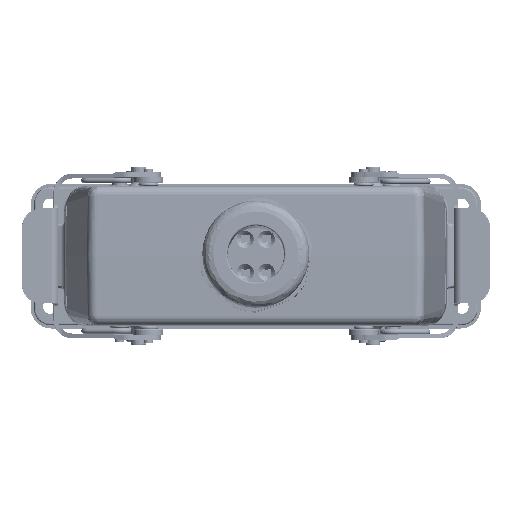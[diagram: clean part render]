
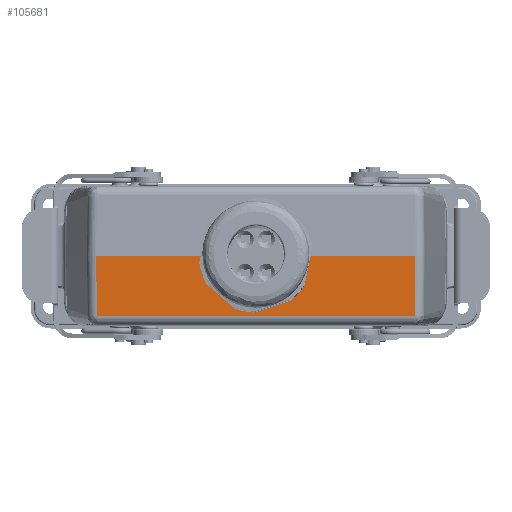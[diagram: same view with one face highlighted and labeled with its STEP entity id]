
A CAD part, top view. The second image highlights one B-rep face of the part: STEP entity #105681.
In plain terms, the highlighted planar face has unit normal (0, -0.018, 1).
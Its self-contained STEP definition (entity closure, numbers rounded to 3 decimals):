
#114 = PLANE ( 'NONE',  #116407 ) ;
#849 = CARTESIAN_POINT ( 'NONE',  ( -50.021, -19.052, 59.667 ) ) ;
#2469 = B_SPLINE_CURVE_WITH_KNOTS ( 'NONE', 3,
 ( #157474, #28964, #86145, #43956, #143453, #849 ),
 .UNSPECIFIED., .F., .F.,
 ( 4, 2, 4 ),
 ( 0., 0.5, 1. ),
 .UNSPECIFIED. ) ;
#2797 = CARTESIAN_POINT ( 'NONE',  ( -50.153, -18.923, 59.67 ) ) ;
#3575 = EDGE_CURVE ( 'NONE', #154238, #178168, #178410, .T. ) ;
#4038 = EDGE_CURVE ( 'NONE', #6761, #57062, #89131, .T. ) ;
#4337 = LINE ( 'NONE', #134745, #184481 ) ;
#6761 = VERTEX_POINT ( 'NONE', #80218 ) ;
#9304 = VERTEX_POINT ( 'NONE', #118234 ) ;
#11567 = ORIENTED_EDGE ( 'NONE', *, *, #3575, .T. ) ;
#17727 = CARTESIAN_POINT ( 'NONE',  ( -11.75, -5.878, 59.897 ) ) ;
#19421 = CARTESIAN_POINT ( 'NONE',  ( 50.153, -18.917, 59.67 ) ) ;
#20588 =( BOUNDED_CURVE ( )  B_SPLINE_CURVE ( 3, ( #130334, #175260, #17727, #58070 ),
 .UNSPECIFIED., .F., .F. ) 
 B_SPLINE_CURVE_WITH_KNOTS ( ( 4, 4 ),
 ( 3.142, 4.712 ),
 .UNSPECIFIED. ) 
 CURVE ( )  GEOMETRIC_REPRESENTATION_ITEM ( )  RATIONAL_B_SPLINE_CURVE ( ( 0.5, 0.5, 0.667, 1. ) ) 
 REPRESENTATION_ITEM ( '' )  );
#28850 = VERTEX_POINT ( 'NONE', #67730 ) ;
#28964 = CARTESIAN_POINT ( 'NONE',  ( -50.152, -18.959, 59.669 ) ) ;
#29488 = ORIENTED_EDGE ( 'NONE', *, *, #177734, .F. ) ;
#29513 = LINE ( 'NONE', #45417, #135956 ) ;
#29961 = EDGE_CURVE ( 'NONE', #9304, #178168, #4337, .T. ) ;
#38086 = LINE ( 'NONE', #71497, #115880 ) ;
#40466 = CARTESIAN_POINT ( 'NONE',  ( 7.833, -11.755, 59.795 ) ) ;
#43956 = CARTESIAN_POINT ( 'NONE',  ( -50.088, -19.04, 59.668 ) ) ;
#44127 = FACE_OUTER_BOUND ( 'NONE', #101226, .T. ) ;
#44884 = CARTESIAN_POINT ( 'NONE',  ( -50.43, 0., 60. ) ) ;
#45417 = CARTESIAN_POINT ( 'NONE',  ( -52.947, 0., 60. ) ) ;
#46122 = EDGE_CURVE ( 'NONE', #28850, #139269, #2469, .T. ) ;
#49149 = VERTEX_POINT ( 'NONE', #129435 ) ;
#49273 = CARTESIAN_POINT ( 'NONE',  ( -50.021, -19.052, 59.667 ) ) ;
#53812 = CARTESIAN_POINT ( 'NONE',  ( 50.153, -18.917, 59.67 ) ) ;
#57062 = VERTEX_POINT ( 'NONE', #76830 ) ;
#57287 = CARTESIAN_POINT ( 'NONE',  ( -52.947, 0., 60. ) ) ;
#58070 = CARTESIAN_POINT ( 'NONE',  ( -11.75, 0., 60. ) ) ;
#58304 = VERTEX_POINT ( 'NONE', #44884 ) ;
#65120 = CARTESIAN_POINT ( 'NONE',  ( 50.138, -18.987, 59.669 ) ) ;
#65237 = LINE ( 'NONE', #150682, #104979 ) ;
#67730 = CARTESIAN_POINT ( 'NONE',  ( -50.153, -18.923, 59.67 ) ) ;
#71497 = CARTESIAN_POINT ( 'NONE',  ( -52.947, -19.052, 59.667 ) ) ;
#76830 = CARTESIAN_POINT ( 'NONE',  ( 0., -11.755, 59.795 ) ) ;
#80218 = CARTESIAN_POINT ( 'NONE',  ( 11.75, 0., 60. ) ) ;
#84518 = CARTESIAN_POINT ( 'NONE',  ( 11.75, -5.878, 59.897 ) ) ;
#85346 = CARTESIAN_POINT ( 'NONE',  ( -50.43, 0., 60. ) ) ;
#86145 = CARTESIAN_POINT ( 'NONE',  ( -50.138, -18.99, 59.669 ) ) ;
#89131 =( BOUNDED_CURVE ( )  B_SPLINE_CURVE ( 3, ( #96803, #84518, #40466, #141823 ),
 .UNSPECIFIED., .F., .F. ) 
 B_SPLINE_CURVE_WITH_KNOTS ( ( 4, 4 ),
 ( 1.571, 3.142 ),
 .UNSPECIFIED. ) 
 CURVE ( )  GEOMETRIC_REPRESENTATION_ITEM ( )  RATIONAL_B_SPLINE_CURVE ( ( 1., 0.667, 0.5, 0.5 ) ) 
 REPRESENTATION_ITEM ( '' )  );
#94063 = ORIENTED_EDGE ( 'NONE', *, *, #141292, .T. ) ;
#96297 = ORIENTED_EDGE ( 'NONE', *, *, #181717, .T. ) ;
#96803 = CARTESIAN_POINT ( 'NONE',  ( 11.75, 0., 60. ) ) ;
#101116 = B_SPLINE_CURVE_WITH_KNOTS ( 'NONE', 3,
 ( #2797, #171624, #144477, #85346 ),
 .UNSPECIFIED., .F., .F.,
 ( 4, 4 ),
 ( 0., 1. ),
 .UNSPECIFIED. ) ;
#101226 = EDGE_LOOP ( 'NONE', ( #114261, #126336, #96297, #94063, #29488, #118068, #134732, #11567, #134098 ) ) ;
#101349 = DIRECTION ( 'NONE',  ( 0., -0.017, 1. ) ) ;
#104979 = VECTOR ( 'NONE', #152517, 1000. ) ;
#105681 = ADVANCED_FACE ( 'NONE', ( #44127 ), #114, .T. ) ;
#108602 = EDGE_CURVE ( 'NONE', #9304, #6761, #65237, .T. ) ;
#109254 = CARTESIAN_POINT ( 'NONE',  ( 50.085, -19.039, 59.668 ) ) ;
#114261 = ORIENTED_EDGE ( 'NONE', *, *, #108602, .T. ) ;
#114578 = DIRECTION ( 'NONE',  ( -1., 0., 0. ) ) ;
#115880 = VECTOR ( 'NONE', #170945, 1000. ) ;
#116407 = AXIS2_PLACEMENT_3D ( 'NONE', #57287, #101349, #114578 ) ;
#118068 = ORIENTED_EDGE ( 'NONE', *, *, #46122, .T. ) ;
#118234 = CARTESIAN_POINT ( 'NONE',  ( 50.43, 0., 60. ) ) ;
#119830 = CARTESIAN_POINT ( 'NONE',  ( 50.015, -19.052, 59.667 ) ) ;
#123367 = CARTESIAN_POINT ( 'NONE',  ( 50.152, -18.955, 59.669 ) ) ;
#126336 = ORIENTED_EDGE ( 'NONE', *, *, #4038, .T. ) ;
#129435 = CARTESIAN_POINT ( 'NONE',  ( -11.75, 0., 60. ) ) ;
#130334 = CARTESIAN_POINT ( 'NONE',  ( 0., -11.755, 59.795 ) ) ;
#132867 = DIRECTION ( 'NONE',  ( -0.015, -1., -0.017 ) ) ;
#134098 = ORIENTED_EDGE ( 'NONE', *, *, #29961, .F. ) ;
#134732 = ORIENTED_EDGE ( 'NONE', *, *, #178225, .T. ) ;
#134745 = CARTESIAN_POINT ( 'NONE',  ( 50.43, 0., 60. ) ) ;
#135956 = VECTOR ( 'NONE', #160766, 1000. ) ;
#139269 = VERTEX_POINT ( 'NONE', #49273 ) ;
#141292 = EDGE_CURVE ( 'NONE', #49149, #58304, #29513, .T. ) ;
#141823 = CARTESIAN_POINT ( 'NONE',  ( 0., -11.755, 59.795 ) ) ;
#143453 = CARTESIAN_POINT ( 'NONE',  ( -50.058, -19.052, 59.667 ) ) ;
#144477 = CARTESIAN_POINT ( 'NONE',  ( -50.338, -6.308, 59.89 ) ) ;
#150682 = CARTESIAN_POINT ( 'NONE',  ( -52.947, 0., 60. ) ) ;
#152517 = DIRECTION ( 'NONE',  ( -1., 0., 0. ) ) ;
#154238 = VERTEX_POINT ( 'NONE', #119830 ) ;
#157474 = CARTESIAN_POINT ( 'NONE',  ( -50.153, -18.923, 59.67 ) ) ;
#160766 = DIRECTION ( 'NONE',  ( -1., 0., 0. ) ) ;
#170945 = DIRECTION ( 'NONE',  ( 1., 0., 0. ) ) ;
#171624 = CARTESIAN_POINT ( 'NONE',  ( -50.245, -12.616, 59.78 ) ) ;
#175260 = CARTESIAN_POINT ( 'NONE',  ( -7.833, -11.755, 59.795 ) ) ;
#177734 = EDGE_CURVE ( 'NONE', #28850, #58304, #101116, .T. ) ;
#178168 = VERTEX_POINT ( 'NONE', #19421 ) ;
#178225 = EDGE_CURVE ( 'NONE', #139269, #154238, #38086, .T. ) ;
#178410 = B_SPLINE_CURVE_WITH_KNOTS ( 'NONE', 3,
 ( #178631, #182335, #109254, #65120, #123367, #53812 ),
 .UNSPECIFIED., .F., .F.,
 ( 4, 2, 4 ),
 ( 0., 0.5, 1. ),
 .UNSPECIFIED. ) ;
#178631 = CARTESIAN_POINT ( 'NONE',  ( 50.015, -19.052, 59.667 ) ) ;
#181717 = EDGE_CURVE ( 'NONE', #57062, #49149, #20588, .T. ) ;
#182335 = CARTESIAN_POINT ( 'NONE',  ( 50.052, -19.052, 59.667 ) ) ;
#184481 = VECTOR ( 'NONE', #132867, 1000. ) ;
